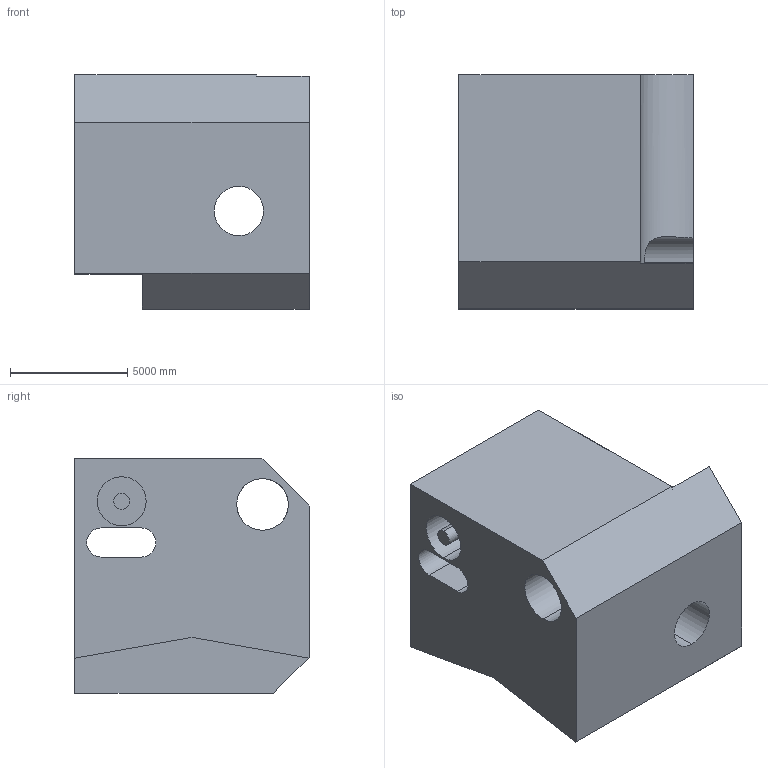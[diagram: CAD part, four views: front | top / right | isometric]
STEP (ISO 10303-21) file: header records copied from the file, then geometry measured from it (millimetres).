
FILE_DESCRIPTION (( 'STEP AP203' ), '1' );
FILE_NAME ('725.STEP', '2022-07-29T12:46:39', ( 'user' ), ( '' ), 'SwSTEP 2.0', 'SolidWorks 2021', '' );
FILE_SCHEMA (( 'CONFIG_CONTROL_DESIGN' ));
Length unit declared in the file: centimetre
Products named in the file (1): 725
Bounding box: 10000 x 10000 x 10000 mm (x, y, z)
Volume: 755657792958.3 mm3; surface area: 807562773.8 mm2
Topology: 1 solids, 1 shells, 27 faces, 72 edges, 48 vertices
Faces by surface type: plane 16, cylinder 11
Entity records: 1035 total; most frequent: CARTESIAN_POINT 253, DIRECTION 147, ORIENTED_EDGE 144, EDGE_CURVE 72, AXIS2_PLACEMENT_3D 50, VERTEX_POINT 48, LINE 47, VECTOR 47
